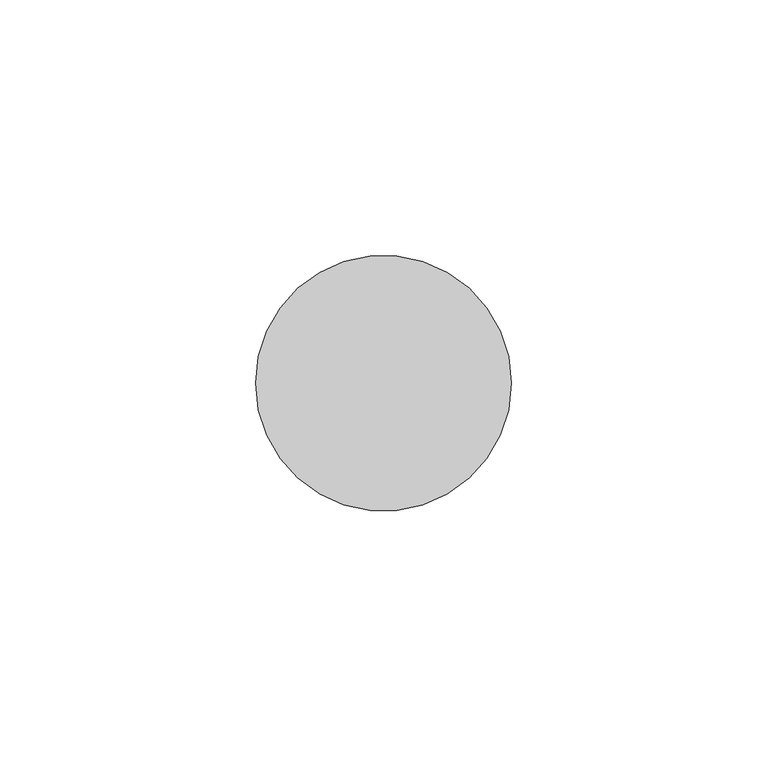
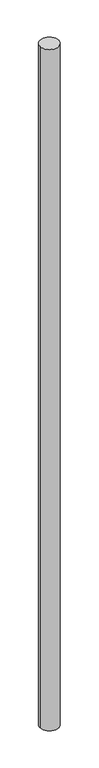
"""IFC4 building model written with IfcOpenShell, lengths in millimetres: member geometry, 圓形豎框 : 25mm 半徑."""

from ifc_helpers import new_model, si_unit, point, frame, origin, origin_2d, place, context, project, spatial, circle_curve, trimmed, segment, composite_curve, outline, extrude, source, transform, mapped, element, save


def member_68128557(model_context):
    return source(origin(), model_context, "Body", "SweptSolid", [
        extrude(outline(composite_curve([segment(trimmed(circle_curve(origin_2d(), 25.0), [point((25.0, 0.0))], [point((-25.0, 0.0))], False, "CARTESIAN"), True, "CONTINUOUS"), segment(trimmed(circle_curve(origin_2d(), 25.0), [point((-25.0, 0.0))], [point((25.0, 0.0))], False, "CARTESIAN"), True, "CONTINUOUS")], self_intersect=False)), frame((0.0, 0.0, -1920.5825605), z_axis=(0.0, 0.0, 1.0), x_axis=(1.0, 0.0, 0.0)), (0.0, 0.0, 1.0), 1920.5825605),
    ])


if __name__ == "__main__":
    model = new_model("IFC4")
    model_context = context("Model", 3, world=origin())
    ifc_project = project(units=[si_unit("LENGTHUNIT", "METRE", prefix="MILLI")], contexts=[model_context])
    site = spatial("IfcSite", under=ifc_project)
    building = spatial("IfcBuilding", under=site)
    placement = place(None, origin())
    member_shape = member_68128557(model_context)
    element("IfcMember", 1, ObjectType="圓形豎框 : 25mm 半徑", at=placement, inside=building, context=model_context, shape_type="MappedRepresentation", body=[
        mapped(member_shape, transform((0.0, 0.0, 0.0), x_axis=(1.0, 0.0, 0.0), y_axis=(0.0, 1.0, 0.0), z_axis=(0.0, 0.0, 1.0))),
    ])
    save(model, "model.ifc")
